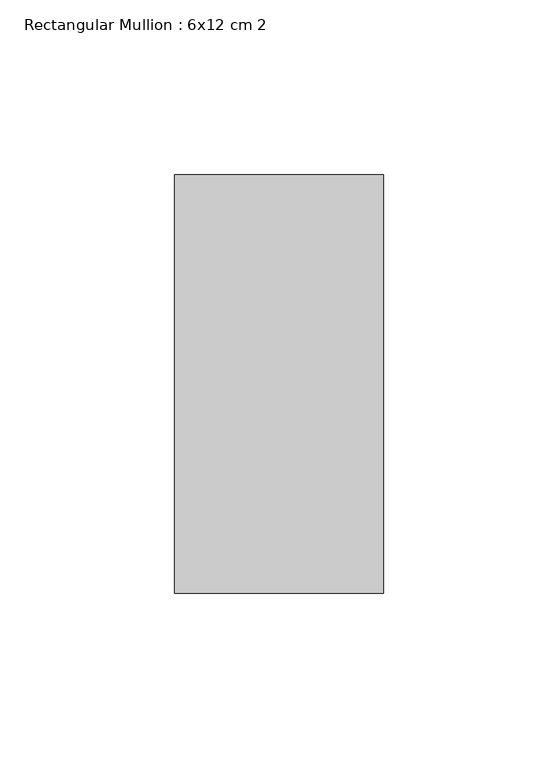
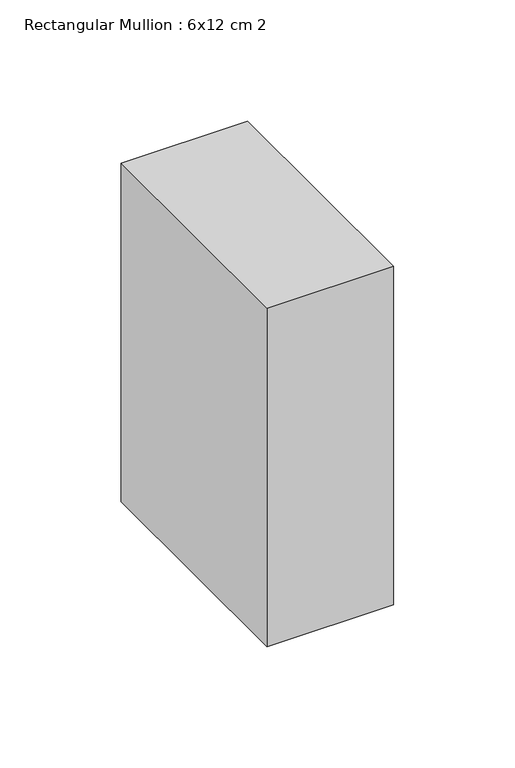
"""IFC4 building model written with IfcOpenShell, lengths in millimetres: member geometry, Rectangular Mullion : 6x12 cm 2."""

from ifc_helpers import new_model, si_unit, frame, origin, place, context, project, spatial, polyline, outline, extrude, source, transform, mapped, element, save


def rectangular_mullion_6x12_cm_2_d8e03a90(model_context):
    return source(origin(), model_context, "Body", "SweptSolid", [
        extrude(outline(polyline([(0.0, 205.0), (0.0, 85.0), (-60.0, 85.0), (-60.0, 205.0), (0.0, 205.0)])), frame((0.0, 0.0, -170.0), z_axis=(0.0, 0.0, 1.0), x_axis=(1.0, 0.0, 0.0)), (0.0, 0.0, 1.0), 170.0),
    ])


if __name__ == "__main__":
    model = new_model("IFC4")
    model_context = context("Model", 3, world=origin())
    ifc_project = project(units=[si_unit("LENGTHUNIT", "METRE", prefix="MILLI")], contexts=[model_context])
    site = spatial("IfcSite", under=ifc_project)
    building = spatial("IfcBuilding", under=site)
    placement = place(None, origin())
    rectangular_mullion_6x12_cm_2_shape = rectangular_mullion_6x12_cm_2_d8e03a90(model_context)
    element("IfcMember", 1, ObjectType="Rectangular Mullion : 6x12 cm 2", at=placement, inside=building, context=model_context, shape_type="MappedRepresentation", body=[
        mapped(rectangular_mullion_6x12_cm_2_shape, transform((0.0, 0.0, 0.0), x_axis=(1.0, 0.0, 0.0), y_axis=(0.0, 1.0, 0.0), z_axis=(0.0, 0.0, 1.0))),
    ])
    save(model, "model.ifc")
